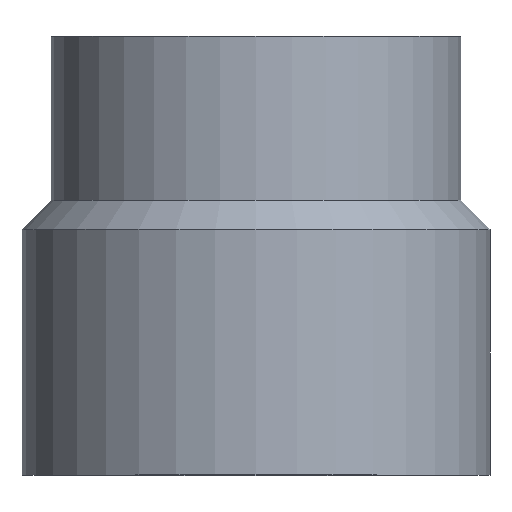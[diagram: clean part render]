
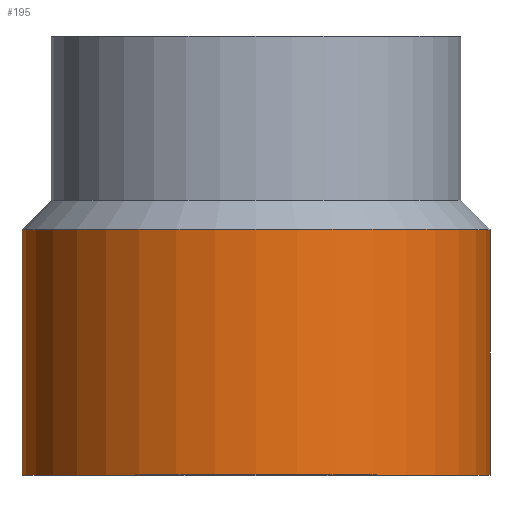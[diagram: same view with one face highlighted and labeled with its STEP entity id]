
A CAD part, top view. The second image highlights one B-rep face of the part: STEP entity #195.
In plain terms, the highlighted cylindrical face has radius 40 mm (diameter 80 mm), a full revolution.
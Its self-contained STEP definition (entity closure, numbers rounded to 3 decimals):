
#23=LINE('',#372,#30);
#30=VECTOR('',#314,40.);
#35=CYLINDRICAL_SURFACE('',#245,40.);
#48=FACE_OUTER_BOUND('',#61,.T.);
#61=EDGE_LOOP('',(#177,#178,#179,#180,#181,#182));
#62=CIRCLE('',#217,40.);
#63=CIRCLE('',#218,40.);
#80=CIRCLE('',#243,40.);
#81=CIRCLE('',#244,40.);
#82=VERTEX_POINT('',#317);
#83=VERTEX_POINT('',#318);
#100=VERTEX_POINT('',#366);
#101=VERTEX_POINT('',#367);
#102=EDGE_CURVE('',#82,#83,#62,.T.);
#103=EDGE_CURVE('',#83,#82,#63,.T.);
#125=EDGE_CURVE('',#100,#101,#80,.T.);
#126=EDGE_CURVE('',#101,#100,#81,.T.);
#128=EDGE_CURVE('',#83,#101,#23,.T.);
#177=ORIENTED_EDGE('',*,*,#102,.F.);
#178=ORIENTED_EDGE('',*,*,#103,.F.);
#179=ORIENTED_EDGE('',*,*,#128,.T.);
#180=ORIENTED_EDGE('',*,*,#126,.T.);
#181=ORIENTED_EDGE('',*,*,#125,.T.);
#182=ORIENTED_EDGE('',*,*,#128,.F.);
#195=ADVANCED_FACE('',(#48),#35,.T.);
#217=AXIS2_PLACEMENT_3D('',#319,#250,#251);
#218=AXIS2_PLACEMENT_3D('',#320,#252,#253);
#243=AXIS2_PLACEMENT_3D('',#368,#307,#308);
#244=AXIS2_PLACEMENT_3D('',#369,#309,#310);
#245=AXIS2_PLACEMENT_3D('',#371,#312,#313);
#250=DIRECTION('center_axis',(0.,-1.,0.));
#251=DIRECTION('ref_axis',(-1.,0.,0.));
#252=DIRECTION('center_axis',(0.,-1.,0.));
#253=DIRECTION('ref_axis',(-1.,0.,0.));
#307=DIRECTION('center_axis',(0.,-1.,0.));
#308=DIRECTION('ref_axis',(-1.,0.,0.));
#309=DIRECTION('center_axis',(0.,-1.,0.));
#310=DIRECTION('ref_axis',(-1.,0.,0.));
#312=DIRECTION('center_axis',(0.,-1.,0.));
#313=DIRECTION('ref_axis',(-1.,0.,0.));
#314=DIRECTION('',(0.,1.,0.));
#317=CARTESIAN_POINT('',(-40.,0.,0.));
#318=CARTESIAN_POINT('',(40.,0.,0.));
#319=CARTESIAN_POINT('Origin',(0.,0.,0.));
#320=CARTESIAN_POINT('Origin',(0.,0.,0.));
#366=CARTESIAN_POINT('',(-40.,42.,0.));
#367=CARTESIAN_POINT('',(40.,42.,0.));
#368=CARTESIAN_POINT('Origin',(0.,42.,0.));
#369=CARTESIAN_POINT('Origin',(0.,42.,0.));
#371=CARTESIAN_POINT('Origin',(0.,21.,0.));
#372=CARTESIAN_POINT('',(40.,21.,0.));
